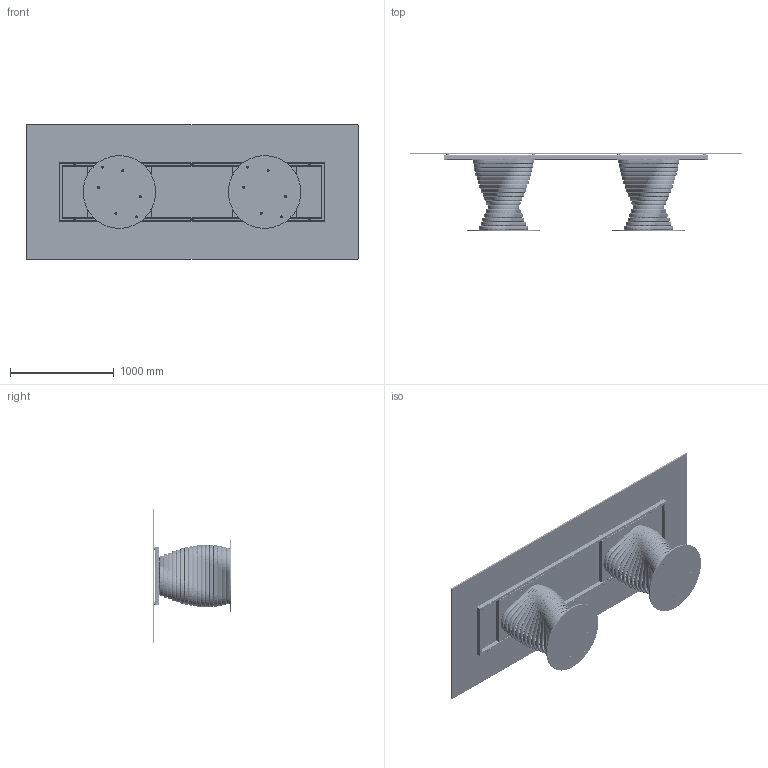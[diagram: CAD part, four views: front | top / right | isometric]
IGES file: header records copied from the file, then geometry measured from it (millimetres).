
Start section: SolidWorks IGES file using analytic representation for surfaces
Global section: file name: Y:\eforma\TECNICO\SOLIDWORKS\E-FORMA\1-TAVOLI\ROTOLO\02 parts\RO25G.IGS; native system: SolidWorks 2022; preprocessor: SolidWorks 2022; author: eforma.tech; date: 240807.151919; units: millimetre
Bounding box: 3200 x 757 x 1300 mm (x, y, z)
Volume: 86085802.6 mm3; surface area: 23011793.8 mm2
Topology: 186 solids, 186 shells, 2830 faces, 6652 edges, 4148 vertices
Faces by surface type: revolution 1660, plane 1170
